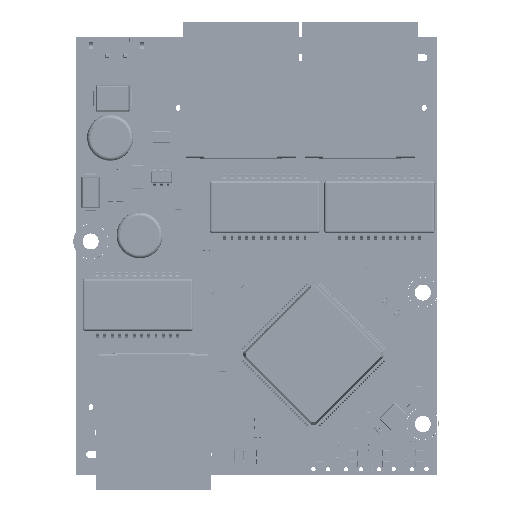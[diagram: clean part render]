
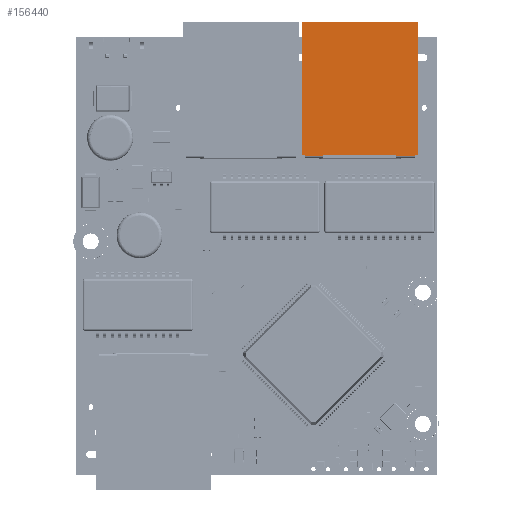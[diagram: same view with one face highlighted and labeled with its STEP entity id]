
A CAD part, top view. The second image highlights one B-rep face of the part: STEP entity #156440.
In plain terms, the highlighted planar face has unit normal (0, 0, 1).
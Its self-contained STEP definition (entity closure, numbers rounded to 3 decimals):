
#156123 = VERTEX_POINT('',#156124);
#156124 = CARTESIAN_POINT('',(-7.27,-6.34,
    12.9));
#156130 = EDGE_CURVE('',#156131,#156123,#156133,.T.);
#156131 = VERTEX_POINT('',#156132);
#156132 = CARTESIAN_POINT('',(-7.27,11.86,
    12.9));
#156133 = LINE('',#156134,#156135);
#156134 = CARTESIAN_POINT('',(-7.27,-6.34,
    12.9));
#156135 = VECTOR('',#156136,1.);
#156136 = DIRECTION('',(-0.,-1.,-0.));
#156161 = VERTEX_POINT('',#156162);
#156162 = CARTESIAN_POINT('',(8.53,-6.34,
    12.9));
#156168 = EDGE_CURVE('',#156123,#156161,#156169,.T.);
#156169 = LINE('',#156170,#156171);
#156170 = CARTESIAN_POINT('',(-7.27,-6.34,
    12.9));
#156171 = VECTOR('',#156172,1.);
#156172 = DIRECTION('',(1.,0.,0.));
#156192 = VERTEX_POINT('',#156193);
#156193 = CARTESIAN_POINT('',(8.53,11.86,
    12.9));
#156199 = EDGE_CURVE('',#156161,#156192,#156200,.T.);
#156200 = LINE('',#156201,#156202);
#156201 = CARTESIAN_POINT('',(8.53,-6.34,
    12.9));
#156202 = VECTOR('',#156203,1.);
#156203 = DIRECTION('',(0.,1.,0.));
#156223 = VERTEX_POINT('',#156224);
#156224 = CARTESIAN_POINT('',(8.13,11.86,
    12.9));
#156230 = EDGE_CURVE('',#156192,#156223,#156231,.T.);
#156231 = LINE('',#156232,#156233);
#156232 = CARTESIAN_POINT('',(8.13,11.86,
    12.9));
#156233 = VECTOR('',#156234,1.);
#156234 = DIRECTION('',(-1.,-0.,-0.));
#156254 = VERTEX_POINT('',#156255);
#156255 = CARTESIAN_POINT('',(8.13,11.977,
    12.9));
#156262 = EDGE_CURVE('',#156223,#156254,#156263,.T.);
#156263 = LINE('',#156264,#156265);
#156264 = CARTESIAN_POINT('',(8.13,12.26,
    12.9));
#156265 = VECTOR('',#156266,1.);
#156266 = DIRECTION('',(0.,1.,0.));
#156277 = EDGE_CURVE('',#156278,#156280,#156282,.T.);
#156278 = VERTEX_POINT('',#156279);
#156279 = CARTESIAN_POINT('',(5.63,11.977,
    12.9));
#156280 = VERTEX_POINT('',#156281);
#156281 = CARTESIAN_POINT('',(5.63,11.86,
    12.9));
#156282 = LINE('',#156283,#156284);
#156283 = CARTESIAN_POINT('',(5.63,11.86,
    12.9));
#156284 = VECTOR('',#156285,1.);
#156285 = DIRECTION('',(0.,-1.,0.));
#156327 = VERTEX_POINT('',#156328);
#156328 = CARTESIAN_POINT('',(-4.37,11.86,
    12.9));
#156334 = EDGE_CURVE('',#156280,#156327,#156335,.T.);
#156335 = LINE('',#156336,#156337);
#156336 = CARTESIAN_POINT('',(-4.37,11.86,
    12.9));
#156337 = VECTOR('',#156338,1.);
#156338 = DIRECTION('',(-1.,-0.,-0.));
#156358 = VERTEX_POINT('',#156359);
#156359 = CARTESIAN_POINT('',(-4.37,11.977,
    12.9));
#156366 = EDGE_CURVE('',#156327,#156358,#156367,.T.);
#156367 = LINE('',#156368,#156369);
#156368 = CARTESIAN_POINT('',(-4.37,12.26,
    12.9));
#156369 = VECTOR('',#156370,1.);
#156370 = DIRECTION('',(0.,1.,0.));
#156381 = EDGE_CURVE('',#156382,#156384,#156386,.T.);
#156382 = VERTEX_POINT('',#156383);
#156383 = CARTESIAN_POINT('',(-6.87,11.977,
    12.9));
#156384 = VERTEX_POINT('',#156385);
#156385 = CARTESIAN_POINT('',(-6.87,11.86,
    12.9));
#156386 = LINE('',#156387,#156388);
#156387 = CARTESIAN_POINT('',(-6.87,12.26,
    12.9));
#156388 = VECTOR('',#156389,1.);
#156389 = DIRECTION('',(0.,-1.,0.));
#156429 = EDGE_CURVE('',#156384,#156131,#156430,.T.);
#156430 = LINE('',#156431,#156432);
#156431 = CARTESIAN_POINT('',(-6.87,11.86,
    12.9));
#156432 = VECTOR('',#156433,1.);
#156433 = DIRECTION('',(-1.,0.,0.));
#156440 = ADVANCED_FACE('',(#156441),#156465,.T.);
#156441 = FACE_BOUND('',#156442,.T.);
#156442 = EDGE_LOOP('',(#156443,#156444,#156450,#156451,#156452,#156453,
    #156454,#156455,#156456,#156457,#156463,#156464));
#156443 = ORIENTED_EDGE('',*,*,#156366,.T.);
#156444 = ORIENTED_EDGE('',*,*,#156445,.T.);
#156445 = EDGE_CURVE('',#156358,#156382,#156446,.T.);
#156446 = LINE('',#156447,#156448);
#156447 = CARTESIAN_POINT('',(-6.87,11.977,
    12.9));
#156448 = VECTOR('',#156449,1.);
#156449 = DIRECTION('',(-1.,0.,0.));
#156450 = ORIENTED_EDGE('',*,*,#156381,.T.);
#156451 = ORIENTED_EDGE('',*,*,#156429,.T.);
#156452 = ORIENTED_EDGE('',*,*,#156130,.T.);
#156453 = ORIENTED_EDGE('',*,*,#156168,.T.);
#156454 = ORIENTED_EDGE('',*,*,#156199,.T.);
#156455 = ORIENTED_EDGE('',*,*,#156230,.T.);
#156456 = ORIENTED_EDGE('',*,*,#156262,.T.);
#156457 = ORIENTED_EDGE('',*,*,#156458,.T.);
#156458 = EDGE_CURVE('',#156254,#156278,#156459,.T.);
#156459 = LINE('',#156460,#156461);
#156460 = CARTESIAN_POINT('',(5.63,11.977,
    12.9));
#156461 = VECTOR('',#156462,1.);
#156462 = DIRECTION('',(-1.,0.,0.));
#156463 = ORIENTED_EDGE('',*,*,#156277,.T.);
#156464 = ORIENTED_EDGE('',*,*,#156334,.T.);
#156465 = PLANE('',#156466);
#156466 = AXIS2_PLACEMENT_3D('',#156467,#156468,#156469);
#156467 = CARTESIAN_POINT('',(0.63,2.96,
    12.9));
#156468 = DIRECTION('',(0.,0.,1.));
#156469 = DIRECTION('',(1.,0.,0.));
